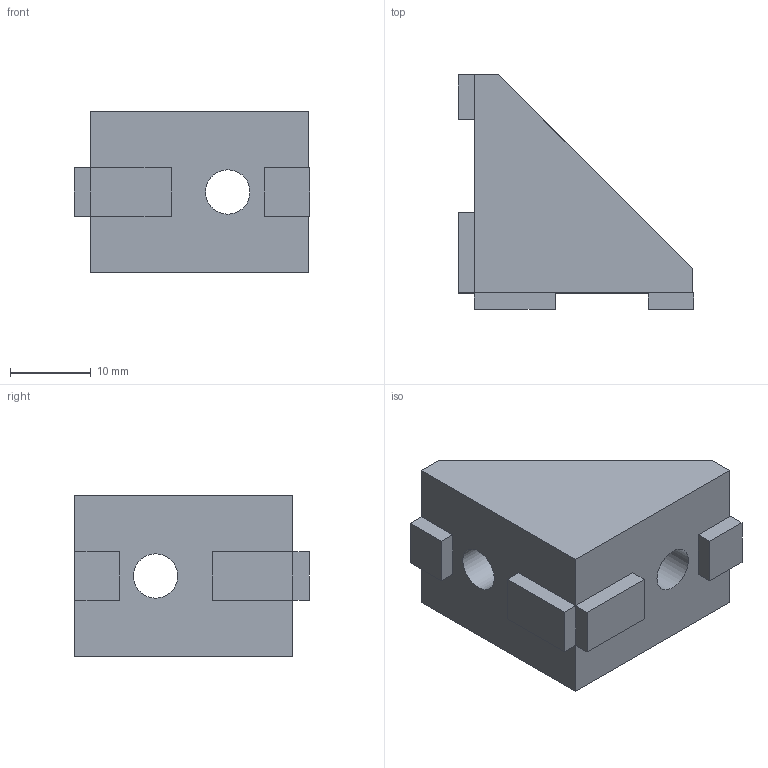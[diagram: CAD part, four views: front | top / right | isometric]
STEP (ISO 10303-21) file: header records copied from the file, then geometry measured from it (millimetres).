
FILE_DESCRIPTION(/* description */ (''),/* implementation_level */ '2;1');
FILE_NAME(/* name */ 'Cornerclamp.step',/* time_stamp */ '2023-06-06T06:56:07-04:00',/* author */ (''),/* organization */ (''),/* preprocessor_version */ 'ST-DEVELOPER v19.2',/* originating_system */ 'Autodesk Translation Framework v12.6.0.85',/* authorisation */ '');
FILE_SCHEMA (('AUTOMOTIVE_DESIGN { 1 0 10303 214 3 1 1 }'));
Length unit declared in the file: millimetre
Products named in the file (1): corner_clamp v1
Bounding box: 29.14 x 29 x 20 mm (x, y, z)
Volume: 6232.5 mm3; surface area: 3546.7 mm2
Topology: 1 solids, 1 shells, 40 faces, 97 edges, 60 vertices
Faces by surface type: plane 31, cylinder 7, sphere 2
Full cylindrical faces by diameter (mm): 5.5 x2
Entity records: 1184 total; most frequent: CARTESIAN_POINT 198, ORIENTED_EDGE 194, DIRECTION 193, EDGE_CURVE 97, LINE 83, VECTOR 83, VERTEX_POINT 60, AXIS2_PLACEMENT_3D 55
